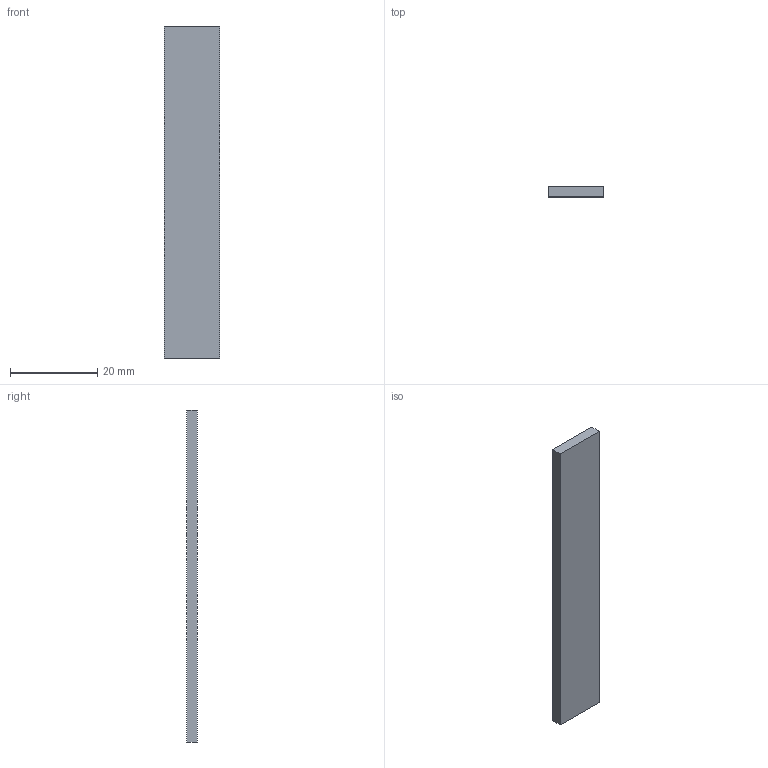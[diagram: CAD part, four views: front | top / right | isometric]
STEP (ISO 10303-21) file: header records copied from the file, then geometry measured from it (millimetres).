
FILE_DESCRIPTION (( 'STEP AP214' ), '1' );
FILE_NAME ('3 _in_Dual_Lock_Strip-SJ3540.step', '2025-12-23T15:51:47', ( '' ), ( '' ), 'SwSTEP 2.0', 'SolidWorks 2026', '' );
FILE_SCHEMA (( 'AUTOMOTIVE_DESIGN' ));
Length unit declared in the file: inch
Products named in the file (1): 3 _in_Dual_Lock_Strip-SJ3540
Bounding box: 12.7 x 2.38 x 76.2 mm (x, y, z)
Volume: 2304.4 mm3; surface area: 2358.9 mm2
Topology: 1 solids, 1 shells, 6 faces, 12 edges, 8 vertices
Faces by surface type: plane 6
Entity records: 183 total; most frequent: CARTESIAN_POINT 27, DIRECTION 26, ORIENTED_EDGE 24, LINE 12, EDGE_CURVE 12, VECTOR 12, VERTEX_POINT 8, AXIS2_PLACEMENT_3D 7
